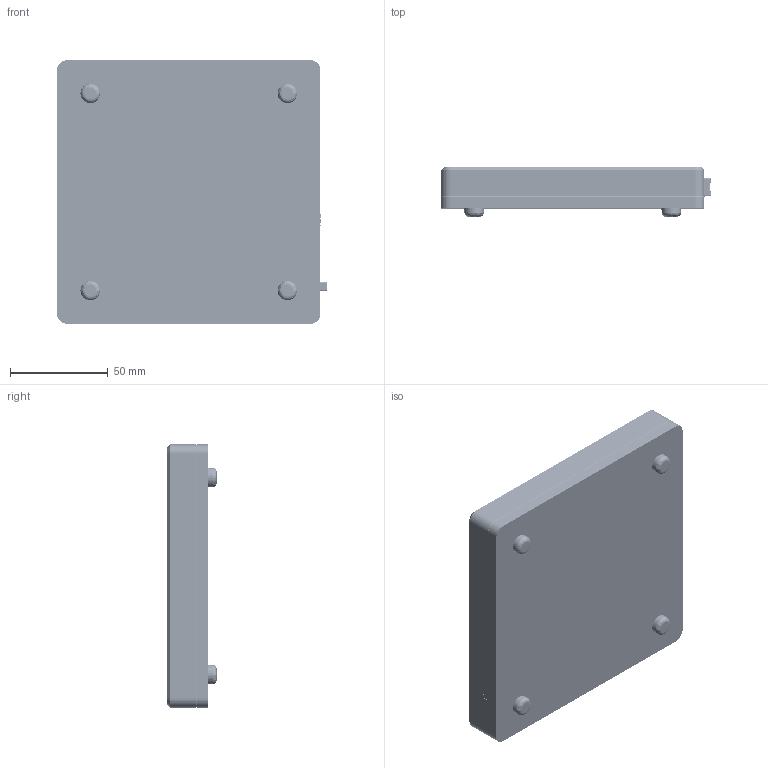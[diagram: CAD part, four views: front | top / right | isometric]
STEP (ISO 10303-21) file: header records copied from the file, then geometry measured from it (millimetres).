
FILE_DESCRIPTION (( 'STEP AP214' ), '1' );
FILE_NAME ('100157_Ver 0_GO Controller R2.STEP', '2025-03-14T08:21:08', ( '' ), ( '' ), 'SwSTEP 2.0', 'SolidWorks 2021', '' );
FILE_SCHEMA (( 'AUTOMOTIVE_DESIGN' ));
Length unit declared in the file: millimetre
Products named in the file (21): IX61G-A-10P; 100079_Ver 3_Bottom Controller I_O; PCB connectors etc; IX61G-B-10P; CUI_DEVICES_SJ-3524-SMT-TR; Raised_head_screw_DIN_7985_M3x5_H_24660_030_005_High_; Condensator; BM04B-SRSS-TB; PHB2UEESN1ANS; 100189_Ver 0_Top Controller I_O_NO_DaisyChain; PBH2UxxNAG1Cxxx cap; 101448 Conn 5p JST BM05B-SRSS-TB top entry; JACK-C-PC-10A-RA(R)--3DModel-STEP-56544; ERNI 114711; BPM-2; TR Fastenings Ltd-M3X14mm_M3X14mm; controler2_hv4a_230314; 5151105F; 100157_Ver 0_GO Controller R2; 2169890001; Dialight 597-3301-507F
Assembly tree (52 placements, depth 2):
  100157_Ver 0_GO Controller R2
    100079_Ver 3_Bottom Controller I_O
    PCB connectors etc
    101448 Conn 5p JST BM05B-SRSS-TB top entry  x6
    5151105F
    Dialight 597-3301-507F
    TR Fastenings Ltd-M3X14mm_M3X14mm  x4
    Raised_head_screw_DIN_7985_M3x5_H_24660_030_005_High_  x13
    ERNI 114711  x3
    IX61G-B-10P  x3
    PHB2UEESN1ANS
    PBH2UxxNAG1Cxxx cap
    JACK-C-PC-10A-RA(R)--3DModel-STEP-56544
    BPM-2  x4
    2169890001
    IX61G-A-10P
    controler2_hv4a_230314  x3
    BM04B-SRSS-TB  x3
    CUI_DEVICES_SJ-3524-SMT-TR  x2
    100189_Ver 0_Top Controller I_O_NO_DaisyChain
    Condensator
Bounding box: 138.38 x 25.2 x 135 mm (x, y, z)
Volume: 194400.1 mm3; surface area: 166999.8 mm2
Topology: 626 solids, 635 shells, 26346 faces, 71209 edges, 46743 vertices
Faces by surface type: plane 16939, cylinder 8905, cone 258, bspline 181, torus 37, sphere 26
Entity records: 428183 total; most frequent: CARTESIAN_POINT 73242, ORIENTED_EDGE 59652, DIRECTION 56698, EDGE_CURVE 29857, LINE 21538, VECTOR 21538, VERTEX_POINT 19634, AXIS2_PLACEMENT_3D 17580
